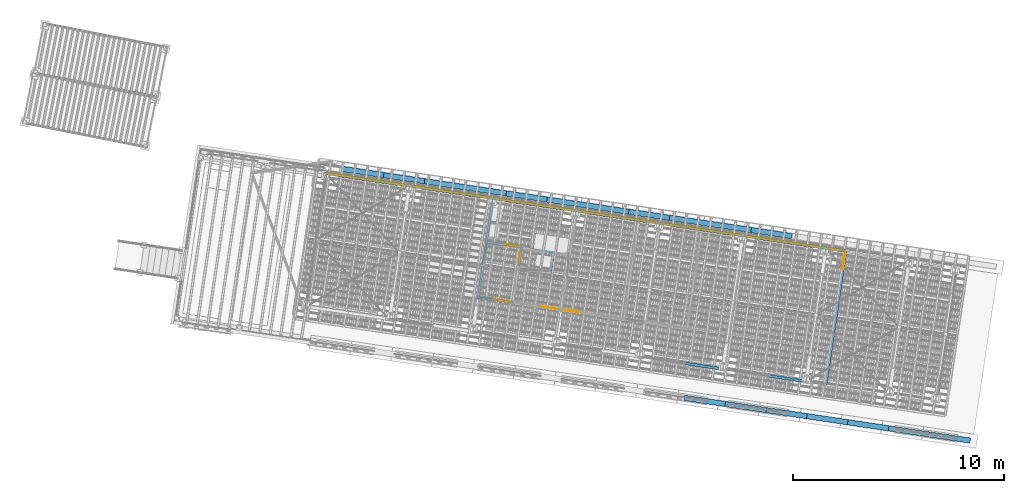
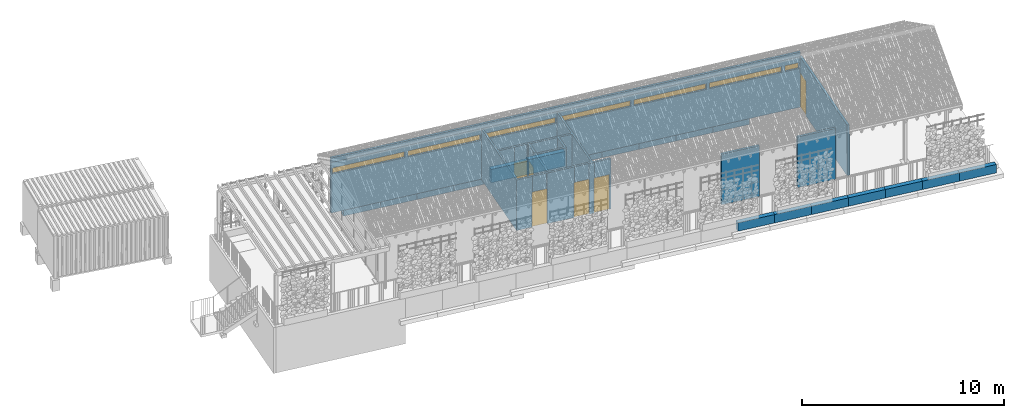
# One storey, part 118 of 128: 25 walls, 7 windows, 6 doors, 16 openings, 1 element without a shape of its own.
"""IFC4 building model written with IfcOpenShell, lengths in metres."""

from ifc_helpers import new_model, si_unit, direction, frame, origin_with_axes, place, context, subcontext, project, spatial, polyline, outline, extrude, material, layer, layer_set, constituent, constituent_set, element, fill, aggregate, save


model = new_model("IFC4")

# Units and contexts
model_context = context("Model", 3, precision=1e-05, world=origin_with_axes(), true_north=direction((0.0, 1.0)))
body_context = subcontext(model_context, "Body", "Model", "MODEL_VIEW")
ifc_project = project(units=[si_unit("VOLUMEUNIT", "CUBIC_METRE"), si_unit("LENGTHUNIT", "METRE"), si_unit("AREAUNIT", "SQUARE_METRE")], contexts=[model_context])

# Site, building, storey
site_placement = place(None, origin_with_axes())
site = spatial("IfcSite", under=ifc_project, at=site_placement, Name="Lares · Rua das Mercês · artigo 4771")
building_placement = place(site_placement, frame((15.0, 9.7, 13.9), z_axis=(0.0, 0.0, 1.0), x_axis=(0.989015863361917, -0.147809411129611, 0.0)))
building = spatial("IfcBuilding", under=site, at=building_placement, Name="Casa Sobreposta")
storey_placement = place(building_placement, origin_with_axes())
storey = spatial("IfcBuildingStorey", under=building, at=storey_placement, Name="00 · Habitação e estacionamento", Elevation=13.9)

# Wall, openings, doors
ifc_material_1 = material(Name="OSB", Category="wood")
ifc_constituent_1 = constituent(ifc_material_1, Name="osb")
ifc_material_2 = material(Name="Lã mineral / Mineralwolle 2", Category="mineral wool")
ifc_constituent_2 = constituent(ifc_material_2, Name="wool")
ifc_constituent_set_1 = constituent_set(constituents=[ifc_constituent_1, ifc_constituent_2], Name="OSB22 / lã mineral / OSB22")
wall_1_placement = place(storey_placement, origin_with_axes())
wall_1 = element("IfcWall", 1, at=wall_1_placement, inside=storey, material=ifc_constituent_set_1, Name="Divisória 1 · OSB 22 mm nas duas faces", context=body_context, shape_type="SweptSolid", body=[
    extrude(outline(polyline([(8.05999999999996, 6.27299999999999), (8.05999999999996, 4.35299999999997), (8.80454037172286, 4.35299999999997), (8.80454322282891, 4.37255471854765), (9.67462900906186, 4.37242785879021), (9.67461809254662, 4.29755537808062), (9.74955631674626, 4.29756574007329), (9.74967661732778, 3.42754853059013), (9.63967661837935, 3.4275333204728), (9.63956117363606, 4.26243297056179), (8.90999999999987, 4.26253934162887), (8.90999999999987, 4.24299999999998), (8.05999999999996, 4.24299999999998), (8.05999999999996, 1.68999999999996), (8.70456930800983, 1.68999999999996), (8.70457262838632, 1.71008556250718), (9.6746647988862, 1.70992519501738), (9.67464661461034, 1.59992519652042), (8.80999999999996, 1.60006813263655), (8.80999999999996, 1.57999999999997), (7.96000000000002, 1.57999999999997), (7.96000000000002, 6.27299999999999), (8.05999999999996, 6.27299999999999)]), holes=[polyline([(7.98200000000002, 1.60199999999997), (8.78799999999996, 1.60199999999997), (8.78799999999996, 1.62207176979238), (9.65265025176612, 1.62192883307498), (9.65266116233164, 1.68792883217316), (8.72656899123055, 1.68808192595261), (8.72656567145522, 1.66799999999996), (8.03799999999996, 1.66799999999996), (8.03799999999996, 4.26499999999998), (8.88799999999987, 4.26499999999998), (8.88799999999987, 4.28454254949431), (9.65261617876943, 4.28443106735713), (9.65262580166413, 4.35043106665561), (8.8265400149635, 4.35055151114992), (8.82653716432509, 4.33099999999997), (8.03799999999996, 4.33099999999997), (8.03799999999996, 6.25099999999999), (7.98200000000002, 6.25099999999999), (7.98200000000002, 1.60199999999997)]), polyline([(9.66167357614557, 3.44953636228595), (9.72767357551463, 3.44954548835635), (9.72755935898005, 4.27556269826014), (9.661559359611, 4.27555357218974), (9.66167357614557, 3.44953636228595)])]), origin_with_axes(), (0.0, 0.0, 1.0), 3.05),
    extrude(outline(polyline([(7.98200000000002, 6.25099999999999), (8.03799999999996, 6.25099999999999), (8.03799999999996, 4.33099999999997), (8.82653716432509, 4.33099999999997), (8.8265400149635, 4.35055151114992), (9.65262580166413, 4.35043106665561), (9.65261617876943, 4.28443106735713), (8.88799999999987, 4.28454254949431), (8.88799999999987, 4.26499999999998), (8.03799999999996, 4.26499999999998), (8.03799999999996, 1.66799999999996), (8.72656567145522, 1.66799999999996), (8.72656899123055, 1.68808192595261), (9.65266116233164, 1.68792883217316), (9.65265025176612, 1.62192883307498), (8.78799999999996, 1.62207176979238), (8.78799999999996, 1.60199999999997), (7.98200000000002, 1.60199999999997), (7.98200000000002, 6.25099999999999)])), origin_with_axes(), (0.0, 0.0, 1.0), 3.05),
    extrude(outline(polyline([(9.661559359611, 4.27555357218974), (9.72755935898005, 4.27556269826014), (9.72767357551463, 3.44954548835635), (9.66167357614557, 3.44953636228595), (9.661559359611, 4.27555357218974)])), origin_with_axes(), (0.0, 0.0, 1.0), 3.05),
])
opening_1_placement = place(wall_1_placement, origin_with_axes())
opening_1 = element("IfcOpeningElement", 2, at=opening_1_placement, cuts=wall_1, PredefinedType="OPENING", context=body_context, shape_type="SweptSolid", body=[
    extrude(outline(polyline([(8.87451187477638, 4.15754451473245), (8.87455853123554, 4.47754451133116), (9.60464431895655, 4.4774380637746), (9.60459766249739, 4.15743806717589), (8.87451187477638, 4.15754451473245)])), origin_with_axes(), (0.0, 0.0, 1.0), 2.1),
])
opening_2_placement = place(wall_1_placement, origin_with_axes())
opening_2 = element("IfcOpeningElement", 3, at=opening_2_placement, cuts=wall_1, PredefinedType="OPENING", context=body_context, shape_type="SweptSolid", body=[
    extrude(outline(polyline([(8.77453708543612, 1.49507399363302), (8.77458998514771, 1.81507398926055), (9.60468215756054, 1.81493676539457), (9.60462925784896, 1.49493676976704), (8.77453708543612, 1.49507399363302)])), origin_with_axes(), (0.0, 0.0, 1.0), 2.1),
])
opening_3_placement = place(wall_1_placement, origin_with_axes())
opening_3 = element("IfcOpeningElement", 4, at=opening_3_placement, cuts=wall_1, PredefinedType="OPENING", context=body_context, shape_type="SweptSolid", body=[
    extrude(outline(polyline([(9.85466693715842, 3.49756304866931), (9.53466694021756, 3.49751880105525), (9.5345659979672, 4.22753601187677), (9.85456599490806, 4.22758025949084), (9.85466693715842, 3.49756304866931)])), origin_with_axes(), (0.0, 0.0, 1.0), 2.1),
])
door_1_placement = place(storey_placement, origin_with_axes())
door_1 = element("IfcDoor", 5, at=door_1_placement, inside=storey, material=ifc_material_1, Name="Porta interior 3", OperationType="SINGLE_SWING_LEFT", OverallHeight=2.1, OverallWidth=0.730085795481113, PredefinedType="DOOR", context=body_context, shape_type="SweptSolid", body=[
    extrude(outline(polyline([(8.87453265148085, 4.30004451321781), (8.87453775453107, 4.3350445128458), (9.60462354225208, 4.33493806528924), (9.60461843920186, 4.29993806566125), (8.87453265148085, 4.30004451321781)])), origin_with_axes(), (0.0, 0.0, 1.0), 2.1),
])
fill(opening_1, door_1)
door_2_placement = place(storey_placement, origin_with_axes())
door_2 = element("IfcDoor", 6, at=door_2_placement, inside=storey, material=ifc_material_1, Name="Porta interior 4", OperationType="SINGLE_SWING_LEFT", OverallHeight=2.1, OverallWidth=0.830092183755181, PredefinedType="DOOR", context=body_context, shape_type="SweptSolid", body=[
    extrude(outline(polyline([(8.77456064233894, 1.6375739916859), (8.7745664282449, 1.67257399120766), (9.60465860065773, 1.67243676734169), (9.60465281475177, 1.63743676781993), (8.77456064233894, 1.6375739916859)])), origin_with_axes(), (0.0, 0.0, 1.0), 2.1),
])
fill(opening_2, door_2)
door_3_placement = place(storey_placement, origin_with_axes())
door_3 = element("IfcDoor", 7, at=door_3_placement, inside=storey, material=ifc_material_1, Name="Porta interior 6", OperationType="SINGLE_SWING_LEFT", OverallHeight=2.1, OverallWidth=0.730017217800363, PredefinedType="DOOR", context=body_context, shape_type="SweptSolid", body=[
    extrude(outline(polyline([(9.71216693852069, 3.49754334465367), (9.67716693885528, 3.49753850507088), (9.67706599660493, 4.22755571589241), (9.71206599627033, 4.2275605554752), (9.71216693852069, 3.49754334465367)])), origin_with_axes(), (0.0, 0.0, 1.0), 2.1),
])
fill(opening_3, door_3)

ifc_constituent_3 = constituent(ifc_material_1, Name="osb")
ifc_constituent_4 = constituent(ifc_material_2, Name="wool")
ifc_constituent_set_2 = constituent_set(constituents=[ifc_constituent_3, ifc_constituent_4], Name="OSB22 / lã mineral / OSB22")
wall_2_placement = place(storey_placement, origin_with_axes())
wall_2 = element("IfcWall", 8, at=wall_2_placement, inside=storey, material=ifc_constituent_set_2, Name="Divisória 2 · OSB 22 mm nas duas faces", context=body_context, shape_type="SweptSolid", body=[
    extrude(outline(polyline([(9.72999999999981, 3.383), (11.1799999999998, 3.383), (11.1799999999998, 4.24299999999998), (9.72999999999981, 4.24299999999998), (9.72999999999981, 4.19299999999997), (9.61999999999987, 4.19299999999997), (9.61999999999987, 4.24299999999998), (9.56999999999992, 4.24299999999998), (9.56999999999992, 4.35299999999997), (11.96, 4.35299999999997), (11.96, 6.27299999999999), (12.06, 6.27299999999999), (12.06, 1.70993390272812), (12.9746138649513, 1.7100856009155), (12.974632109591, 1.60008560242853), (12.1099999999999, 1.59994219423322), (12.1099999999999, 1.57999999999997), (11.8099999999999, 1.57999999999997), (11.8099999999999, 1.59995696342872), (11.05, 1.60006879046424), (11.05, 1.57999999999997), (9.56999999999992, 1.57999999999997), (9.56999999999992, 1.68999999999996), (9.61999999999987, 1.68999999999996), (9.61999999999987, 3.53299999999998), (9.72999999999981, 3.53299999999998), (9.72999999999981, 3.383)]), holes=[polyline([(9.64199999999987, 3.51099999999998), (9.64199999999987, 1.66799999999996), (9.59199999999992, 1.66799999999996), (9.59199999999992, 1.60199999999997), (11.028, 1.60199999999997), (11.028, 1.62207202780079), (11.8319999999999, 1.62195372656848), (11.8319999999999, 1.60199999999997), (12.0879999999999, 1.60199999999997), (12.0879999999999, 1.62193854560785), (12.9526284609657, 1.62208195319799), (12.9526175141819, 1.68808195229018), (12.038, 1.68793025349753), (12.038, 6.25099999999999), (11.982, 6.25099999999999), (11.982, 4.33099999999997), (9.59199999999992, 4.33099999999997), (9.59199999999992, 4.26499999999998), (9.64199999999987, 4.26499999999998), (9.64199999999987, 4.21499999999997), (9.70799999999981, 4.21499999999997), (9.70799999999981, 4.26499999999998), (11.2019999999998, 4.26499999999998), (11.2019999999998, 3.361), (9.70799999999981, 3.361), (9.70799999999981, 3.51099999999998), (9.64199999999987, 3.51099999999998)])]), origin_with_axes(), (0.0, 0.0, 1.0), 3.05),
    extrude(outline(polyline([(10.9666589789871, 1.66799999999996), (9.70799999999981, 1.66799999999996), (9.70799999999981, 3.29500000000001), (11.268, 3.29500000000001), (11.268, 4.26499999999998), (11.982, 4.26499999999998), (11.982, 1.66799999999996), (11.892736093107, 1.66799999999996), (11.8927390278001, 1.68794479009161), (10.9666619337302, 1.68808105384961), (10.9666589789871, 1.66799999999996)]), holes=[polyline([(11.96, 4.24299999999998), (11.29, 4.24299999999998), (11.29, 3.27300000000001), (9.72999999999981, 3.27300000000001), (9.72999999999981, 1.68999999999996), (10.9446622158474, 1.68999999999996), (10.9446651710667, 1.71008429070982), (11.9147422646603, 1.70994155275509), (11.9147393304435, 1.68999999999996), (11.96, 1.68999999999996), (11.96, 4.24299999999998)])]), origin_with_axes(), (0.0, 0.0, 1.0), 3.05),
    extrude(outline(polyline([(9.70799999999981, 3.51099999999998), (9.70799999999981, 3.361), (11.2019999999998, 3.361), (11.2019999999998, 4.26499999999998), (9.70799999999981, 4.26499999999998), (9.70799999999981, 4.21499999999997), (9.64199999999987, 4.21499999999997), (9.64199999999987, 4.26499999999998), (9.59199999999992, 4.26499999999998), (9.59199999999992, 4.33099999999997), (11.982, 4.33099999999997), (11.982, 6.25099999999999), (12.038, 6.25099999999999), (12.038, 1.68793025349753), (12.9526175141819, 1.68808195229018), (12.9526284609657, 1.62208195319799), (12.0879999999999, 1.62193854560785), (12.0879999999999, 1.60199999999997), (11.8319999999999, 1.60199999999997), (11.8319999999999, 1.62195372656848), (11.028, 1.62207202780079), (11.028, 1.60199999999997), (9.59199999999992, 1.60199999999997), (9.59199999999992, 1.66799999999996), (9.64199999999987, 1.66799999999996), (9.64199999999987, 3.51099999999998), (9.70799999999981, 3.51099999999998)]), holes=[polyline([(10.9666619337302, 1.68808105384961), (11.8927390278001, 1.68794479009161), (11.892736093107, 1.66799999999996), (11.982, 1.66799999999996), (11.982, 4.26499999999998), (11.268, 4.26499999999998), (11.268, 3.29500000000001), (9.70799999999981, 3.29500000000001), (9.70799999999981, 1.66799999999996), (10.9666589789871, 1.66799999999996), (10.9666619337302, 1.68808105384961)])]), origin_with_axes(), (0.0, 0.0, 1.0), 3.05),
])
opening_4_placement = place(wall_2_placement, origin_with_axes())
opening_4 = element("IfcOpeningElement", 9, at=opening_4_placement, cuts=wall_2, PredefinedType="OPENING", context=body_context, shape_type="SweptSolid", body=[
    extrude(outline(polyline([(12.9045964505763, 1.81507398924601), (12.9046495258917, 1.49507399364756), (12.0745568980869, 1.49493631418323), (12.0745038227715, 1.81493630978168), (12.9045964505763, 1.81507398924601)])), origin_with_axes(), (0.0, 0.0, 1.0), 2.1),
])
opening_5_placement = place(wall_2_placement, origin_with_axes())
element("IfcOpeningElement", 10, at=opening_5_placement, cuts=wall_2, PredefinedType="OPENING", context=body_context, shape_type="SweptSolid", body=[
    extrude(outline(polyline([(8.87451187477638, 4.15754451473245), (8.87455853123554, 4.47754451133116), (9.60464431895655, 4.4774380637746), (9.60459766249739, 4.15743806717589), (8.87451187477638, 4.15754451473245)])), origin_with_axes(), (0.0, 0.0, 1.0), 2.1),
])
opening_6_placement = place(wall_2_placement, origin_with_axes())
element("IfcOpeningElement", 11, at=opening_6_placement, cuts=wall_2, PredefinedType="OPENING", context=body_context, shape_type="SweptSolid", body=[
    extrude(outline(polyline([(8.77453708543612, 1.49507399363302), (8.77458998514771, 1.81507398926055), (9.60468215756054, 1.81493676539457), (9.60462925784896, 1.49493676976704), (8.77453708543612, 1.49507399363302)])), origin_with_axes(), (0.0, 0.0, 1.0), 2.1),
])
opening_7_placement = place(wall_2_placement, origin_with_axes())
opening_7 = element("IfcOpeningElement", 12, at=opening_7_placement, cuts=wall_2, Name="Vão porta interior 5.1", PredefinedType="OPENING", context=body_context, shape_type="SweptSolid", body=[
    extrude(outline(polyline([(11.0146335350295, 1.49507399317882), (11.0146806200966, 1.81507398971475), (11.8447577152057, 1.81495185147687), (11.8447106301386, 1.49495185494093), (11.0146335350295, 1.49507399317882)])), origin_with_axes(), (0.0, 0.0, 1.0), 2.1),
])
opening_8_placement = place(wall_2_placement, origin_with_axes())
element("IfcOpeningElement", 13, at=opening_8_placement, cuts=wall_2, PredefinedType="OPENING", context=body_context, shape_type="SweptSolid", body=[
    extrude(outline(polyline([(9.85466693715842, 3.49756304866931), (9.53466694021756, 3.49751880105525), (9.5345659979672, 4.22753601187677), (9.85456599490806, 4.22758025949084), (9.85466693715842, 3.49756304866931)])), origin_with_axes(), (0.0, 0.0, 1.0), 2.1),
])
door_4_placement = place(storey_placement, origin_with_axes())
door_4 = element("IfcDoor", 14, at=door_4_placement, inside=storey, material=ifc_material_1, Name="Porta interior 2", OperationType="SINGLE_SWING_LEFT", OverallHeight=2.1, OverallWidth=0.830092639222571, PredefinedType="DOOR", context=body_context, shape_type="SweptSolid", body=[
    extrude(outline(polyline([(12.9046200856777, 1.67257399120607), (12.9046258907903, 1.63757399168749), (12.0745332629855, 1.63743631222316), (12.0745274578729, 1.67243631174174), (12.9046200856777, 1.67257399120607)])), origin_with_axes(), (0.0, 0.0, 1.0), 2.1),
])
fill(opening_4, door_4)
door_5_placement = place(storey_placement, origin_with_axes())
door_5 = element("IfcDoor", 15, at=door_5_placement, inside=storey, material=ifc_material_1, Name="Porta interior 5", OperationType="SINGLE_SWING_LEFT", OverallHeight=2.1, OverallWidth=0.830077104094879, PredefinedType="DOOR", context=body_context, shape_type="SweptSolid", body=[
    extrude(outline(polyline([(11.0146545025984, 1.63757399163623), (11.0146596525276, 1.67257399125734), (11.8447367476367, 1.67245185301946), (11.8447315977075, 1.63745185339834), (11.0146545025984, 1.63757399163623)])), origin_with_axes(), (0.0, 0.0, 1.0), 2.1),
])
fill(opening_7, door_5)

# Wall, openings, windows
ifc_material_3 = material(Name="Aço pintado / Stahl lackiert", Category="steel")
ifc_layer_1 = layer(ifc_material_3, 0.005, Name="steel")
ifc_layer_2 = layer(ifc_material_2, 0.12, Name="wool")
ifc_layer_3 = layer(ifc_material_3, 0.00516, Name="steel")
ifc_layer_set_1 = layer_set([ifc_layer_1, ifc_layer_2, ifc_layer_3], Name="Casa DFL sandwich · 130.16 mm")
wall_3_placement = place(storey_placement, origin_with_axes())
wall_3 = element("IfcWall", 16, at=wall_3_placement, inside=storey, material=ifc_layer_set_1, Name="Fachada norte · sandwich Casa DFL", context=body_context, shape_type="SweptSolid", body=[
    extrude(outline(polyline([(24.92, 6.46508), (24.92, 6.33492), (0.0, 6.33492), (0.0, 6.46508), (24.92, 6.46508)])), origin_with_axes(), (0.0, 0.0, 1.0), 3.05),
])
opening_9_placement = place(wall_3_placement, frame((0.0, 0.0, 2.35), z_axis=(0.0, 0.0, 1.0), x_axis=(1.0, 0.0, 0.0)))
opening_9 = element("IfcOpeningElement", 17, at=opening_9_placement, cuts=wall_3, Name="Vão rasgo norte 1", PredefinedType="OPENING", context=body_context, shape_type="SweptSolid", body=[
    extrude(outline(polyline([(3.92, 6.6), (3.92, 6.2), (0.08, 6.2), (0.08, 6.6), (3.92, 6.6)])), origin_with_axes(), (0.0, 0.0, 1.0), 0.35),
])
opening_10_placement = place(wall_3_placement, frame((0.0, 0.0, 2.35), z_axis=(0.0, 0.0, 1.0), x_axis=(1.0, 0.0, 0.0)))
opening_10 = element("IfcOpeningElement", 18, at=opening_10_placement, cuts=wall_3, Name="Vão rasgo norte 2", PredefinedType="OPENING", context=body_context, shape_type="SweptSolid", body=[
    extrude(outline(polyline([(7.92, 6.6), (7.92, 6.2), (4.08, 6.2), (4.08, 6.6), (7.92, 6.6)])), origin_with_axes(), (0.0, 0.0, 1.0), 0.35),
])
opening_11_placement = place(wall_3_placement, frame((0.0, 0.0, 2.35), z_axis=(0.0, 0.0, 1.0), x_axis=(1.0, 0.0, 0.0)))
opening_11 = element("IfcOpeningElement", 19, at=opening_11_placement, cuts=wall_3, Name="Vão rasgo norte 3", PredefinedType="OPENING", context=body_context, shape_type="SweptSolid", body=[
    extrude(outline(polyline([(11.92, 6.6), (11.92, 6.2), (8.08, 6.2), (8.08, 6.6), (11.92, 6.6)])), origin_with_axes(), (0.0, 0.0, 1.0), 0.35),
])
opening_12_placement = place(wall_3_placement, frame((0.0, 0.0, 2.35), z_axis=(0.0, 0.0, 1.0), x_axis=(1.0, 0.0, 0.0)))
opening_12 = element("IfcOpeningElement", 20, at=opening_12_placement, cuts=wall_3, Name="Vão rasgo norte 4", PredefinedType="OPENING", context=body_context, shape_type="SweptSolid", body=[
    extrude(outline(polyline([(15.92, 6.6), (15.92, 6.2), (12.08, 6.2), (12.08, 6.6), (15.92, 6.6)])), origin_with_axes(), (0.0, 0.0, 1.0), 0.35),
])
opening_13_placement = place(wall_3_placement, frame((0.0, 0.0, 2.35), z_axis=(0.0, 0.0, 1.0), x_axis=(1.0, 0.0, 0.0)))
opening_13 = element("IfcOpeningElement", 21, at=opening_13_placement, cuts=wall_3, Name="Vão rasgo norte 5", PredefinedType="OPENING", context=body_context, shape_type="SweptSolid", body=[
    extrude(outline(polyline([(19.92, 6.6), (19.92, 6.2), (16.08, 6.2), (16.08, 6.6), (19.92, 6.6)])), origin_with_axes(), (0.0, 0.0, 1.0), 0.35),
])
opening_14_placement = place(wall_3_placement, frame((0.0, 0.0, 2.35), z_axis=(0.0, 0.0, 1.0), x_axis=(1.0, 0.0, 0.0)))
opening_14 = element("IfcOpeningElement", 22, at=opening_14_placement, cuts=wall_3, Name="Vão rasgo norte 6", PredefinedType="OPENING", context=body_context, shape_type="SweptSolid", body=[
    extrude(outline(polyline([(23.92, 6.6), (23.92, 6.2), (20.08, 6.2), (20.08, 6.6), (23.92, 6.6)])), origin_with_axes(), (0.0, 0.0, 1.0), 0.35),
])
opening_15_placement = place(wall_3_placement, frame((0.0, 0.0, 2.35), z_axis=(0.0, 0.0, 1.0), x_axis=(1.0, 0.0, 0.0)))
opening_15 = element("IfcOpeningElement", 23, at=opening_15_placement, cuts=wall_3, Name="Vão rasgo norte 7", PredefinedType="OPENING", context=body_context, shape_type="SweptSolid", body=[
    extrude(outline(polyline([(24.84, 6.6), (24.84, 6.2), (24.08, 6.2), (24.08, 6.6), (24.84, 6.6)])), origin_with_axes(), (0.0, 0.0, 1.0), 0.35),
])
ifc_material_4 = material(Name="Vidro / Normalglas", Category="glass")
window_1_placement = place(storey_placement, frame((0.0, 0.0, 2.375), z_axis=(0.0, 0.0, 1.0), x_axis=(1.0, 0.0, 0.0)))
window_1 = element("IfcWindow", 24, at=window_1_placement, inside=storey, material=ifc_material_4, Name="Rasgo norte 1", OverallHeight=0.3, OverallWidth=3.79, PartitioningType="SINGLE_PANEL", PredefinedType="WINDOW", context=body_context, shape_type="SweptSolid", body=[
    extrude(outline(polyline([(3.895, 6.404), (3.895, 6.396), (0.105, 6.396), (0.105, 6.404), (3.895, 6.404)])), origin_with_axes(), (0.0, 0.0, 1.0), 0.3),
])
fill(opening_9, window_1)
window_2_placement = place(storey_placement, frame((0.0, 0.0, 2.375), z_axis=(0.0, 0.0, 1.0), x_axis=(1.0, 0.0, 0.0)))
window_2 = element("IfcWindow", 25, at=window_2_placement, inside=storey, material=ifc_material_4, Name="Rasgo norte 2", OverallHeight=0.3, OverallWidth=3.79, PartitioningType="SINGLE_PANEL", PredefinedType="WINDOW", context=body_context, shape_type="SweptSolid", body=[
    extrude(outline(polyline([(7.895, 6.404), (7.895, 6.396), (4.105, 6.396), (4.105, 6.404), (7.895, 6.404)])), origin_with_axes(), (0.0, 0.0, 1.0), 0.3),
])
fill(opening_10, window_2)
window_3_placement = place(storey_placement, frame((0.0, 0.0, 2.375), z_axis=(0.0, 0.0, 1.0), x_axis=(1.0, 0.0, 0.0)))
window_3 = element("IfcWindow", 26, at=window_3_placement, inside=storey, material=ifc_material_4, Name="Rasgo norte 3", OverallHeight=0.3, OverallWidth=3.79, PartitioningType="SINGLE_PANEL", PredefinedType="WINDOW", context=body_context, shape_type="SweptSolid", body=[
    extrude(outline(polyline([(11.895, 6.404), (11.895, 6.396), (8.105, 6.396), (8.105, 6.404), (11.895, 6.404)])), origin_with_axes(), (0.0, 0.0, 1.0), 0.3),
])
fill(opening_11, window_3)
window_4_placement = place(storey_placement, frame((0.0, 0.0, 2.375), z_axis=(0.0, 0.0, 1.0), x_axis=(1.0, 0.0, 0.0)))
window_4 = element("IfcWindow", 27, at=window_4_placement, inside=storey, material=ifc_material_4, Name="Rasgo norte 4", OverallHeight=0.3, OverallWidth=3.79, PartitioningType="SINGLE_PANEL", PredefinedType="WINDOW", context=body_context, shape_type="SweptSolid", body=[
    extrude(outline(polyline([(15.895, 6.404), (15.895, 6.396), (12.105, 6.396), (12.105, 6.404), (15.895, 6.404)])), origin_with_axes(), (0.0, 0.0, 1.0), 0.3),
])
fill(opening_12, window_4)
window_5_placement = place(storey_placement, frame((0.0, 0.0, 2.375), z_axis=(0.0, 0.0, 1.0), x_axis=(1.0, 0.0, 0.0)))
window_5 = element("IfcWindow", 28, at=window_5_placement, inside=storey, material=ifc_material_4, Name="Rasgo norte 5", OverallHeight=0.3, OverallWidth=3.79, PartitioningType="SINGLE_PANEL", PredefinedType="WINDOW", context=body_context, shape_type="SweptSolid", body=[
    extrude(outline(polyline([(19.895, 6.404), (19.895, 6.396), (16.105, 6.396), (16.105, 6.404), (19.895, 6.404)])), origin_with_axes(), (0.0, 0.0, 1.0), 0.3),
])
fill(opening_13, window_5)
window_6_placement = place(storey_placement, frame((0.0, 0.0, 2.375), z_axis=(0.0, 0.0, 1.0), x_axis=(1.0, 0.0, 0.0)))
window_6 = element("IfcWindow", 29, at=window_6_placement, inside=storey, material=ifc_material_4, Name="Rasgo norte 6", OverallHeight=0.3, OverallWidth=3.79, PartitioningType="SINGLE_PANEL", PredefinedType="WINDOW", context=body_context, shape_type="SweptSolid", body=[
    extrude(outline(polyline([(23.895, 6.404), (23.895, 6.396), (20.105, 6.396), (20.105, 6.404), (23.895, 6.404)])), origin_with_axes(), (0.0, 0.0, 1.0), 0.3),
])
fill(opening_14, window_6)
window_7_placement = place(storey_placement, frame((0.0, 0.0, 2.375), z_axis=(0.0, 0.0, 1.0), x_axis=(1.0, 0.0, 0.0)))
window_7 = element("IfcWindow", 30, at=window_7_placement, inside=storey, material=ifc_material_4, Name="Rasgo norte 7", OverallHeight=0.3, OverallWidth=0.710000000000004, PartitioningType="SINGLE_PANEL", PredefinedType="WINDOW", context=body_context, shape_type="SweptSolid", body=[
    extrude(outline(polyline([(24.815, 6.404), (24.815, 6.396), (24.105, 6.396), (24.105, 6.404), (24.815, 6.404)])), origin_with_axes(), (0.0, 0.0, 1.0), 0.3),
])
fill(opening_15, window_7)

# Wall, opening, door
ifc_layer_4 = layer(ifc_material_3, 0.005, Name="steel")
ifc_layer_5 = layer(ifc_material_2, 0.12, Name="wool")
ifc_layer_6 = layer(ifc_material_3, 0.00516, Name="steel")
ifc_layer_set_2 = layer_set([ifc_layer_4, ifc_layer_5, ifc_layer_6], Name="Casa DFL sandwich · 130.16 mm")
wall_4_placement = place(storey_placement, origin_with_axes())
wall_4 = element("IfcWall", 31, at=wall_4_placement, inside=storey, material=ifc_layer_set_2, Name="Separação do estacionamento", context=body_context, shape_type="SweptSolid", body=[
    extrude(outline(polyline([(24.87992, 6.4), (25.01008, 6.4), (25.01008, 0.0), (24.87992, 0.0), (24.87992, 6.4)])), origin_with_axes(), (0.0, 0.0, 1.0), 3.05),
])
opening_16_placement = place(wall_4_placement, origin_with_axes())
opening_16 = element("IfcOpeningElement", 32, at=opening_16_placement, cuts=wall_4, Name="Vão de acesso do estacionamento", PredefinedType="OPENING", context=body_context, shape_type="SweptSolid", body=[
    extrude(outline(polyline([(24.745, 6.34), (25.145, 6.34), (25.145, 5.51), (24.745, 5.51), (24.745, 6.34)])), origin_with_axes(), (0.0, 0.0, 1.0), 2.1),
])
door_6_placement = place(storey_placement, origin_with_axes())
door_6 = element("IfcDoor", 33, at=door_6_placement, inside=storey, material=ifc_material_3, Name="Porta do estacionamento", OperationType="SINGLE_SWING_LEFT", OverallHeight=2.1, OverallWidth=0.83, PredefinedType="DOOR", context=body_context, shape_type="SweptSolid", body=[
    extrude(outline(polyline([(24.925, 6.34), (24.965, 6.34), (24.965, 5.51), (24.925, 5.51), (24.925, 6.34)])), origin_with_axes(), (0.0, 0.0, 1.0), 2.1),
])
fill(opening_16, door_6)

# Walls
ifc_layer_7 = layer(ifc_material_3, 0.005, Name="steel")
ifc_layer_8 = layer(ifc_material_2, 0.12, Name="wool")
ifc_layer_9 = layer(ifc_material_3, 0.00516, Name="steel")
ifc_layer_set_3 = layer_set([ifc_layer_7, ifc_layer_8, ifc_layer_9], Name="Casa DFL sandwich · 130.16 mm")
wall_5_placement = place(storey_placement, origin_with_axes())
element("IfcWall", 34, at=wall_5_placement, inside=storey, material=ifc_layer_set_3, Name="Painel opaco sul 9", context=body_context, shape_type="SweptSolid", body=[
    extrude(outline(polyline([(20.2133333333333, 0.06508), (20.2133333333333, -0.06508), (18.192, -0.06508), (18.192, 0.06508), (20.2133333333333, 0.06508)])), origin_with_axes(), (0.0, 0.0, 1.0), 3.05),
])
ifc_layer_10 = layer(ifc_material_3, 0.005, Name="steel")
ifc_layer_11 = layer(ifc_material_2, 0.12, Name="wool")
ifc_layer_12 = layer(ifc_material_3, 0.00516, Name="steel")
ifc_layer_set_4 = layer_set([ifc_layer_10, ifc_layer_11, ifc_layer_12], Name="Casa DFL sandwich · 130.16 mm")
wall_6_placement = place(storey_placement, origin_with_axes())
element("IfcWall", 35, at=wall_6_placement, inside=storey, material=ifc_layer_set_4, Name="Painel opaco sul 11", context=body_context, shape_type="SweptSolid", body=[
    extrude(outline(polyline([(24.256, 0.06508), (24.256, -0.06508), (22.2346666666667, -0.06508), (22.2346666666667, 0.06508), (24.256, 0.06508)])), origin_with_axes(), (0.0, 0.0, 1.0), 3.05),
])
ifc_material_5 = material(Name="Madeira / Bauholz", Category="wood")
wall_7_placement = place(storey_placement, frame((0.0, 0.0, 3.05), z_axis=(0.0, 0.0, 1.0), x_axis=(1.0, 0.0, 0.0)))
element("IfcWall", 36, at=wall_7_placement, inside=storey, material=ifc_material_5, Name="Fachada · remate sob frechal", context=body_context, shape_type="SweptSolid", body=[
    extrude(outline(polyline([(24.92, 6.465), (24.92, 6.335), (0.0, 6.335), (0.0, 6.465), (24.92, 6.465)])), origin_with_axes(), (0.0, 0.0, 1.0), 0.27),
])

# Assembly, walls
assembly_placement = place(storey_placement, origin_with_axes())
assembly = element("IfcElementAssembly", 37, at=assembly_placement, inside=storey, Name="Pódio · terraço, casa térrea e cisterna", ObjectType="CISTERN_PODIUM", PredefinedType="USERDEFINED")
ifc_material_6 = material(Name="Betão armado / Stahlbeton", Category="concrete")
wall_8_placement = place(assembly_placement, frame((0.0, 0.0, -0.55), z_axis=(0.0, 0.0, 1.0), x_axis=(1.0, 0.0, 0.0)))
wall_8 = element("IfcWall", 38, at=wall_8_placement, material=ifc_material_6, Name="Pódio · contenção sul", ObjectType="Pódio · contenção sul", PredefinedType="USERDEFINED", context=body_context, shape_type="SweptSolid", body=[
    extrude(outline(polyline([(20.359375, -1.5), (20.359375, -1.75), (18.3984375, -1.75), (18.3984375, -1.5), (20.359375, -1.5)])), origin_with_axes(), (0.0, 0.0, 1.0), 0.51),
])
wall_9_placement = place(assembly_placement, frame((0.0, 0.0, -0.55), z_axis=(0.0, 0.0, 1.0), x_axis=(1.0, 0.0, 0.0)))
wall_9 = element("IfcWall", 39, at=wall_9_placement, material=ifc_material_6, Name="Pódio · contenção sul", ObjectType="Pódio · contenção sul", PredefinedType="USERDEFINED", context=body_context, shape_type="SweptSolid", body=[
    extrude(outline(polyline([(22.3203125, -1.5), (22.3203125, -1.75), (20.359375, -1.75), (20.359375, -1.5), (22.3203125, -1.5)])), origin_with_axes(), (0.0, 0.0, 1.0), 0.51),
])
wall_10_placement = place(assembly_placement, frame((0.0, 0.0, -0.55), z_axis=(0.0, 0.0, 1.0), x_axis=(1.0, 0.0, 0.0)))
wall_10 = element("IfcWall", 40, at=wall_10_placement, material=ifc_material_6, Name="Pódio · contenção sul", ObjectType="Pódio · contenção sul", PredefinedType="USERDEFINED", context=body_context, shape_type="SweptSolid", body=[
    extrude(outline(polyline([(24.28125, -1.5), (24.28125, -1.75), (22.3203125, -1.75), (22.3203125, -1.5), (24.28125, -1.5)])), origin_with_axes(), (0.0, 0.0, 1.0), 0.51),
])
wall_11_placement = place(assembly_placement, frame((0.0, 0.0, -0.55), z_axis=(0.0, 0.0, 1.0), x_axis=(1.0, 0.0, 0.0)))
wall_11 = element("IfcWall", 41, at=wall_11_placement, material=ifc_material_6, Name="Pódio · contenção sul", ObjectType="Pódio · contenção sul", PredefinedType="USERDEFINED", context=body_context, shape_type="SweptSolid", body=[
    extrude(outline(polyline([(26.2421875, -1.5), (26.2421875, -1.75), (24.28125, -1.75), (24.28125, -1.5), (26.2421875, -1.5)])), origin_with_axes(), (0.0, 0.0, 1.0), 0.51),
])
wall_12_placement = place(assembly_placement, frame((0.0, 0.0, -0.55), z_axis=(0.0, 0.0, 1.0), x_axis=(1.0, 0.0, 0.0)))
wall_12 = element("IfcWall", 42, at=wall_12_placement, material=ifc_material_6, Name="Pódio · contenção sul", ObjectType="Pódio · contenção sul", PredefinedType="USERDEFINED", context=body_context, shape_type="SweptSolid", body=[
    extrude(outline(polyline([(28.203125, -1.5), (28.203125, -1.75), (26.2421875, -1.75), (26.2421875, -1.5), (28.203125, -1.5)])), origin_with_axes(), (0.0, 0.0, 1.0), 0.51),
])
wall_13_placement = place(assembly_placement, frame((0.0, 0.0, -0.55), z_axis=(0.0, 0.0, 1.0), x_axis=(1.0, 0.0, 0.0)))
wall_13 = element("IfcWall", 43, at=wall_13_placement, material=ifc_material_6, Name="Pódio · contenção sul", ObjectType="Pódio · contenção sul", PredefinedType="USERDEFINED", context=body_context, shape_type="SweptSolid", body=[
    extrude(outline(polyline([(30.1640625, -1.5), (30.1640625, -1.75), (28.203125, -1.75), (28.203125, -1.5), (30.1640625, -1.5)])), origin_with_axes(), (0.0, 0.0, 1.0), 0.51),
])
wall_14_placement = place(assembly_placement, frame((0.0, 0.0, -0.55), z_axis=(0.0, 0.0, 1.0), x_axis=(1.0, 0.0, 0.0)))
wall_14 = element("IfcWall", 44, at=wall_14_placement, material=ifc_material_6, Name="Pódio · contenção sul", ObjectType="Pódio · contenção sul", PredefinedType="USERDEFINED", context=body_context, shape_type="SweptSolid", body=[
    extrude(outline(polyline([(32.125, -1.5), (32.125, -1.75), (30.1640625, -1.75), (30.1640625, -1.5), (32.125, -1.5)])), origin_with_axes(), (0.0, 0.0, 1.0), 0.51),
])
wall_15_placement = place(assembly_placement, frame((0.0, 0.0, -0.55), z_axis=(0.0, 0.0, 1.0), x_axis=(1.0, 0.0, 0.0)))
wall_15 = element("IfcWall", 45, at=wall_15_placement, material=ifc_material_6, Name="Pódio · contenção norte", ObjectType="Pódio · contenção norte", PredefinedType="USERDEFINED", context=body_context, shape_type="SweptSolid", body=[
    extrude(outline(polyline([(2.7109375, 6.85), (2.7109375, 6.6), (0.75, 6.6), (0.75, 6.85), (2.7109375, 6.85)])), origin_with_axes(), (0.0, 0.0, 1.0), 0.531955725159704),
])
wall_16_placement = place(assembly_placement, frame((0.0, 0.0, -0.55), z_axis=(0.0, 0.0, 1.0), x_axis=(1.0, 0.0, 0.0)))
wall_16 = element("IfcWall", 46, at=wall_16_placement, material=ifc_material_6, Name="Pódio · contenção norte", ObjectType="Pódio · contenção norte", PredefinedType="USERDEFINED", context=body_context, shape_type="SweptSolid", body=[
    extrude(outline(polyline([(4.671875, 6.85), (4.671875, 6.6), (2.7109375, 6.6), (2.7109375, 6.85), (4.671875, 6.85)])), origin_with_axes(), (0.0, 0.0, 1.0), 0.603018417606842),
])
wall_17_placement = place(assembly_placement, frame((0.0, 0.0, -0.55), z_axis=(0.0, 0.0, 1.0), x_axis=(1.0, 0.0, 0.0)))
wall_17 = element("IfcWall", 47, at=wall_17_placement, material=ifc_material_6, Name="Pódio · contenção norte", ObjectType="Pódio · contenção norte", PredefinedType="USERDEFINED", context=body_context, shape_type="SweptSolid", body=[
    extrude(outline(polyline([(6.6328125, 6.85), (6.6328125, 6.6), (4.671875, 6.6), (4.671875, 6.85), (6.6328125, 6.85)])), origin_with_axes(), (0.0, 0.0, 1.0), 0.674081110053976),
])
wall_18_placement = place(assembly_placement, frame((0.0, 0.0, -0.55), z_axis=(0.0, 0.0, 1.0), x_axis=(1.0, 0.0, 0.0)))
wall_18 = element("IfcWall", 48, at=wall_18_placement, material=ifc_material_6, Name="Pódio · contenção norte", ObjectType="Pódio · contenção norte", PredefinedType="USERDEFINED", context=body_context, shape_type="SweptSolid", body=[
    extrude(outline(polyline([(8.59375, 6.85), (8.59375, 6.6), (6.6328125, 6.6), (6.6328125, 6.85), (8.59375, 6.85)])), origin_with_axes(), (0.0, 0.0, 1.0), 0.737963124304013),
])
wall_19_placement = place(assembly_placement, frame((0.0, 0.0, -0.55), z_axis=(0.0, 0.0, 1.0), x_axis=(1.0, 0.0, 0.0)))
wall_19 = element("IfcWall", 49, at=wall_19_placement, material=ifc_material_6, Name="Pódio · contenção norte", ObjectType="Pódio · contenção norte", PredefinedType="USERDEFINED", context=body_context, shape_type="SweptSolid", body=[
    extrude(outline(polyline([(10.5546875, 6.85), (10.5546875, 6.6), (8.59375, 6.6), (8.59375, 6.85), (10.5546875, 6.85)])), origin_with_axes(), (0.0, 0.0, 1.0), 0.804485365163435),
])
wall_20_placement = place(assembly_placement, frame((0.0, 0.0, -0.55), z_axis=(0.0, 0.0, 1.0), x_axis=(1.0, 0.0, 0.0)))
wall_20 = element("IfcWall", 50, at=wall_20_placement, material=ifc_material_6, Name="Pódio · contenção norte", ObjectType="Pódio · contenção norte", PredefinedType="USERDEFINED", context=body_context, shape_type="SweptSolid", body=[
    extrude(outline(polyline([(12.515625, 6.85), (12.515625, 6.6), (10.5546875, 6.6), (10.5546875, 6.85), (12.515625, 6.85)])), origin_with_axes(), (0.0, 0.0, 1.0), 0.883257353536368),
])
wall_21_placement = place(assembly_placement, frame((0.0, 0.0, -0.55), z_axis=(0.0, 0.0, 1.0), x_axis=(1.0, 0.0, 0.0)))
wall_21 = element("IfcWall", 51, at=wall_21_placement, material=ifc_material_6, Name="Pódio · contenção norte", ObjectType="Pódio · contenção norte", PredefinedType="USERDEFINED", context=body_context, shape_type="SweptSolid", body=[
    extrude(outline(polyline([(14.4765625, 6.85), (14.4765625, 6.6), (12.515625, 6.6), (12.515625, 6.85), (14.4765625, 6.85)])), origin_with_axes(), (0.0, 0.0, 1.0), 0.962029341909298),
])
wall_22_placement = place(assembly_placement, frame((0.0, 0.0, -0.55), z_axis=(0.0, 0.0, 1.0), x_axis=(1.0, 0.0, 0.0)))
wall_22 = element("IfcWall", 52, at=wall_22_placement, material=ifc_material_6, Name="Pódio · contenção norte", ObjectType="Pódio · contenção norte", PredefinedType="USERDEFINED", context=body_context, shape_type="SweptSolid", body=[
    extrude(outline(polyline([(16.4375, 6.85), (16.4375, 6.6), (14.4765625, 6.6), (14.4765625, 6.85), (16.4375, 6.85)])), origin_with_axes(), (0.0, 0.0, 1.0), 1.04080133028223),
])
wall_23_placement = place(assembly_placement, frame((0.0, 0.0, -0.55), z_axis=(0.0, 0.0, 1.0), x_axis=(1.0, 0.0, 0.0)))
wall_23 = element("IfcWall", 53, at=wall_23_placement, material=ifc_material_6, Name="Pódio · contenção norte", ObjectType="Pódio · contenção norte", PredefinedType="USERDEFINED", context=body_context, shape_type="SweptSolid", body=[
    extrude(outline(polyline([(18.3984375, 6.85), (18.3984375, 6.6), (16.4375, 6.6), (16.4375, 6.85), (18.3984375, 6.85)])), origin_with_axes(), (0.0, 0.0, 1.0), 1.11957331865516),
])
wall_24_placement = place(assembly_placement, frame((0.0, 0.0, -0.55), z_axis=(0.0, 0.0, 1.0), x_axis=(1.0, 0.0, 0.0)))
wall_24 = element("IfcWall", 54, at=wall_24_placement, material=ifc_material_6, Name="Pódio · contenção norte", ObjectType="Pódio · contenção norte", PredefinedType="USERDEFINED", context=body_context, shape_type="SweptSolid", body=[
    extrude(outline(polyline([(20.359375, 6.85), (20.359375, 6.6), (18.3984375, 6.6), (18.3984375, 6.85), (20.359375, 6.85)])), origin_with_axes(), (0.0, 0.0, 1.0), 1.1957588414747),
])
wall_25_placement = place(assembly_placement, frame((0.0, 0.0, -0.55), z_axis=(0.0, 0.0, 1.0), x_axis=(1.0, 0.0, 0.0)))
wall_25 = element("IfcWall", 55, at=wall_25_placement, material=ifc_material_6, Name="Pódio · contenção norte", ObjectType="Pódio · contenção norte", PredefinedType="USERDEFINED", context=body_context, shape_type="SweptSolid", body=[
    extrude(outline(polyline([(22.3203125, 6.85), (22.3203125, 6.6), (20.359375, 6.6), (20.359375, 6.85), (22.3203125, 6.85)])), origin_with_axes(), (0.0, 0.0, 1.0), 1.26266559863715),
])
aggregate(assembly, [wall_8, wall_9, wall_10, wall_11, wall_12, wall_13, wall_14, wall_15, wall_16, wall_17, wall_18, wall_19, wall_20, wall_21, wall_22, wall_23, wall_24, wall_25])

save(model, "model.ifc")
